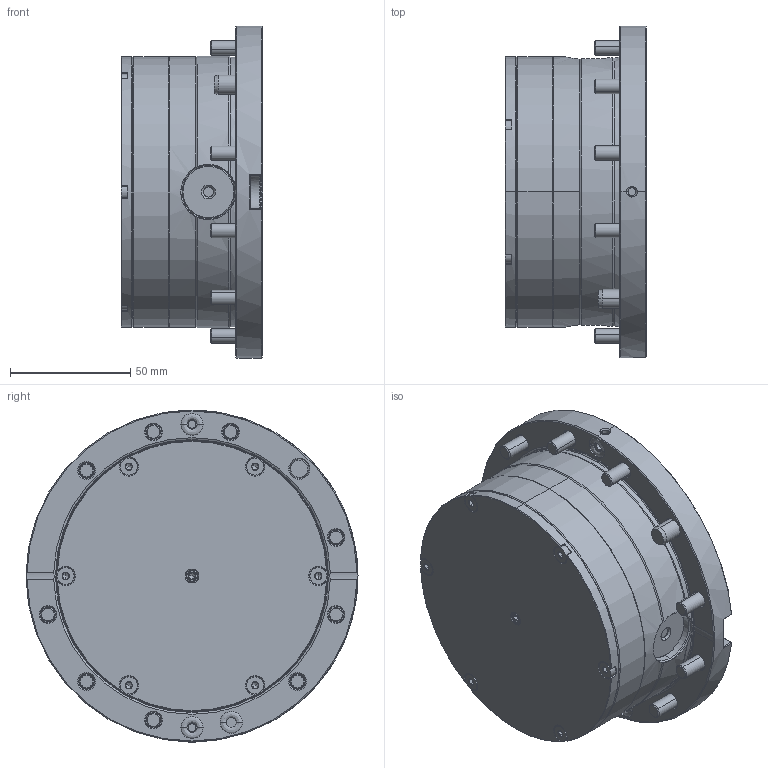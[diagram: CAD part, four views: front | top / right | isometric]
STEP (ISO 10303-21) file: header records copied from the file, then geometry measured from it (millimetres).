
FILE_DESCRIPTION (( 'STEP AP203' ), '1' );
FILE_NAME ('DHP-61P293309.STEP', '2024-04-26T04:29:40', ( '' ), ( '' ), 'SwSTEP 2.0', 'SolidWorks 2022', '' );
FILE_SCHEMA (( 'CONFIG_CONTROL_DESIGN' ));
Length unit declared in the file: millimetre
Products named in the file (1): DHP-61P293309
Bounding box: 58.9 x 138 x 138 mm (x, y, z)
Volume: 594978.9 mm3; surface area: 68619.5 mm2
Topology: 4 solids, 40 shells, 3206 faces, 8427 edges, 5524 vertices
Faces by surface type: plane 1455, bspline 1047, cylinder 402, cone 253, torus 47, sphere 2
Entity records: 150313 total; most frequent: CARTESIAN_POINT 78207, ORIENTED_EDGE 16750, DIRECTION 11462, EDGE_CURVE 8375, VERTEX_POINT 5524, VECTOR 4620, LINE 4620, EDGE_LOOP 3519
